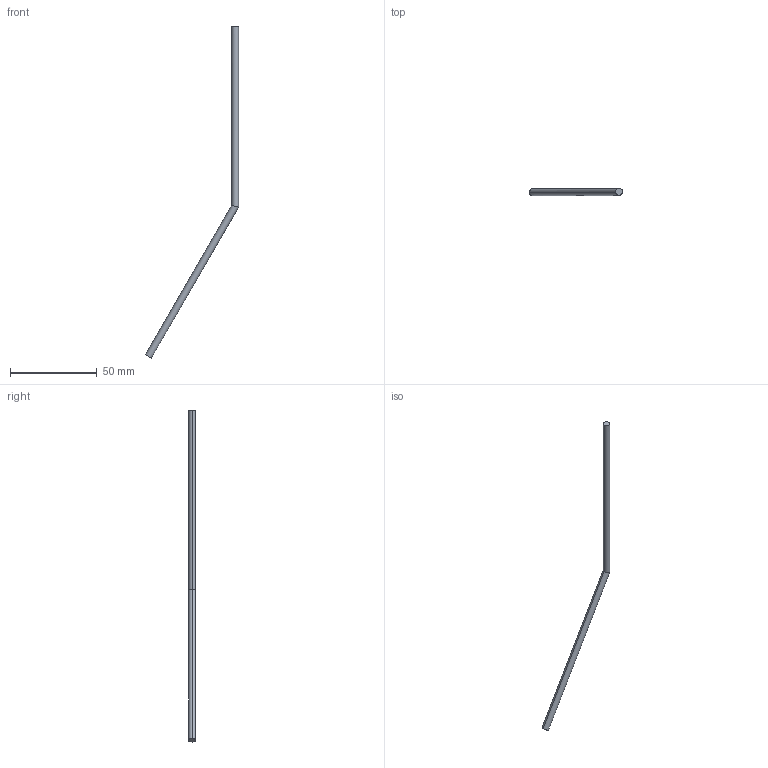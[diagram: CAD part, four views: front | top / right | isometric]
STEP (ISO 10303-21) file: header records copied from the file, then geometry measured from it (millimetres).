
FILE_DESCRIPTION (( 'STEP AP214' ), '1' );
FILE_NAME ('091-2.STEP', '2016-10-14T10:18:05', ( '' ), ( '' ), 'SwSTEP 2.0', 'SolidWorks 2016', '' );
FILE_SCHEMA (( 'AUTOMOTIVE_DESIGN' ));
Length unit declared in the file: millimetre
Products named in the file (1): 091-2
Bounding box: 53.73 x 4 x 191.6 mm (x, y, z)
Volume: 2563.5 mm3; surface area: 2588.7 mm2
Topology: 1 solids, 1 shells, 6 faces, 10 edges, 6 vertices
Faces by surface type: cylinder 4, plane 2
Entity records: 176 total; most frequent: CARTESIAN_POINT 29, DIRECTION 26, ORIENTED_EDGE 20, AXIS2_PLACEMENT_3D 11, EDGE_CURVE 10, ADVANCED_FACE 6, FACE_OUTER_BOUND 6, VERTEX_POINT 6
